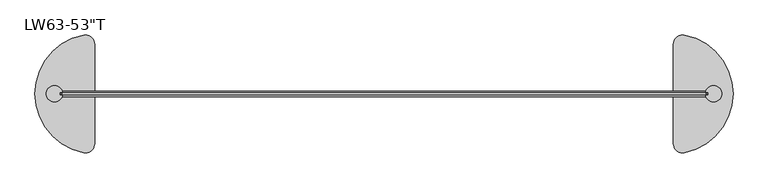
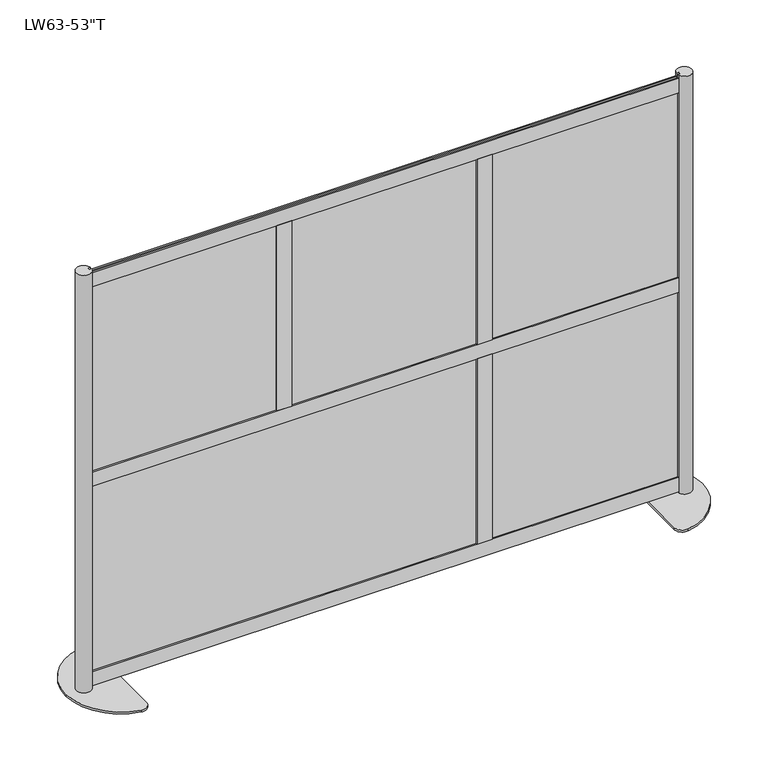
"""IFC4 building model written with IfcOpenShell, lengths in millimetres: furniture geometry."""

from ifc_helpers import new_model, si_unit, point, frame, frame_2d, origin, origin_with_axes, place, context, project, spatial, polyline, circle_curve, trimmed, segment, composite_curve, outline, extrude, source, transform, mapped, element, save


def furniture_f7fb56cb(model_context):
    return source(origin(), model_context, "Body", "SweptSolid", [
        extrude(outline(polyline([(292.5552141, -1.531862), (-896.4822859, -1.531862), (-896.4822859, 1.643138), (292.5552141, 1.643138), (292.5552141, -1.531862)])), frame((0.0, 0.0, 49.2132135), z_axis=(0.0, 0.0, 1.0), x_axis=(1.0, 0.0, 0.0)), (0.0, 0.0, 1.0), 608.965),
        extrude(outline(polyline([(-897.2933616, 1.5875), (-319.4433608, 1.5875), (-319.4435344, -1.5875), (-897.2935353, -1.5875), (-897.2933616, 1.5875)])), frame((0.0, 0.0, 689.2671), z_axis=(0.0, 0.0, 1.0), x_axis=(1.0, 0.0, 0.0)), (0.0, 0.0, 1.0), 608.965),
        extrude(outline(polyline([(-296.520037, 1.5875), (281.3299638, 1.5875), (281.3297902, -1.5875), (-296.5202107, -1.5875), (-296.520037, 1.5875)])), frame((0.0, 0.0, 689.2671), z_axis=(0.0, 0.0, 1.0), x_axis=(1.0, 0.0, 0.0)), (0.0, 0.0, 1.0), 608.965),
        extrude(outline(polyline([(316.9532876, 1.5875), (894.8032884, 1.5875), (894.8031147, -1.5875), (316.9531139, -1.5875), (316.9532876, 1.5875)])), frame((0.0, 0.0, 689.2671), z_axis=(0.0, 0.0, 1.0), x_axis=(1.0, 0.0, 0.0)), (0.0, 0.0, 1.0), 608.965),
        extrude(outline(polyline([(316.9532876, 1.5875), (894.8032884, 1.5875), (894.8031147, -1.5875), (316.9531139, -1.5875), (316.9532876, 1.5875)])), frame((0.0, 0.0, 49.2633), z_axis=(0.0, 0.0, 1.0), x_axis=(1.0, 0.0, 0.0)), (0.0, 0.0, 1.0), 608.965),
        extrude(outline(polyline([(323.8118123, 3.556), (316.6998123, 3.556), (316.6998123, -3.556), (323.8118123, -3.556), (323.8118123, -7.6327), (278.5490123, -7.6327), (278.5490123, -3.556), (285.6610123, -3.556), (285.6610123, 3.556), (278.5490123, 3.556), (278.5490123, 7.6327), (323.8118123, 7.6327), (323.8118123, 3.556)])), frame((0.0, 0.0, 696.3791), z_axis=(0.0, 0.0, 1.0), x_axis=(1.0, 0.0, 0.0)), (0.0, 0.0, 1.0), 594.741),
        extrude(outline(polyline([(323.8118123, 3.556), (316.6998123, 3.556), (316.6998123, -3.556), (323.8118123, -3.556), (323.8118123, -7.6327), (278.5490123, -7.6327), (278.5490123, -3.556), (285.6610123, -3.556), (285.6610123, 3.556), (278.5490123, 3.556), (278.5490123, 7.6327), (323.8118123, 7.6327), (323.8118123, 3.556)])), frame((0.0, 0.0, 56.3753), z_axis=(0.0, 0.0, 1.0), x_axis=(1.0, 0.0, 0.0)), (0.0, 0.0, 1.0), 594.741),
        extrude(outline(polyline([(-329.3680623, 3.556), (-329.3680623, 7.6327), (-284.1052623, 7.6327), (-284.1052623, 3.556), (-291.2172623, 3.556), (-291.2172623, -3.556), (-284.1052623, -3.556), (-284.1052623, -7.6327), (-329.3680623, -7.6327), (-329.3680623, -3.556), (-322.2560623, -3.556), (-322.2560623, 3.556), (-329.3680623, 3.556)])), frame((0.0, 0.0, 696.3791), z_axis=(0.0, 0.0, 1.0), x_axis=(1.0, 0.0, 0.0)), (0.0, 0.0, 1.0), 594.741),
        extrude(outline(polyline([(3.556, 651.1163), (3.556, 658.2283), (-3.556, 658.2283), (-3.556, 651.1163), (-7.6327, 651.1163), (-7.6327, 696.3791), (-3.556, 696.3791), (-3.556, 689.2671), (3.556, 689.2671), (3.556, 696.3791), (7.6327, 696.3791), (7.6327, 651.1163), (3.556, 651.1163)])), frame((-889.7874, 0.0, 0.0), z_axis=(1.0, 0.0, 0.0), x_axis=(0.0, 1.0, 0.0)), (0.0, 0.0, 1.0), 1779.5748),
        extrude(outline(polyline([(3.556, 11.1125), (3.556, 18.2245), (-3.556, 18.2245), (-3.556, 11.1125), (-7.6327, 11.1125), (-7.6327, 56.3753), (-3.556, 56.3753), (-3.556, 49.2633), (3.556, 49.2633), (3.556, 56.3753), (7.6327, 56.3753), (7.6327, 11.1125), (3.556, 11.1125)])), frame((-889.8636, 0.0, 0.0), z_axis=(1.0, 0.0, 0.0), x_axis=(0.0, 1.0, 0.0)), (0.0, 0.0, 1.0), 1779.7272),
        extrude(outline(polyline([(3.556, 1291.1200292), (3.556, 1298.2320292), (-3.556, 1298.2320292), (-3.556, 1291.1200292), (-7.6327, 1291.1200292), (-7.6327, 1336.3828292), (-3.556, 1336.3828292), (-3.556, 1329.2708292), (3.556, 1329.2708292), (3.556, 1336.3828292), (7.6327, 1336.3828292), (7.6327, 1291.1200292), (3.556, 1291.1200292)])), frame((-889.8636, 0.0, 0.0), z_axis=(1.0, 0.0, 0.0), x_axis=(0.0, 1.0, 0.0)), (0.0, 0.0, 1.0), 1779.7272),
        extrude(outline(composite_curve([segment(polyline([(889.8636, -7.7568093), (889.8636, -3.556), (896.9756, -3.556), (896.9756, 3.556), (889.8636, 3.556), (889.8636, 7.7568093)]), True, "CONTINUOUS"), segment(trimmed(circle_curve(frame_2d((910.9665837, 0.0)), 22.4834163), [point((889.8636, 7.7568093))], [point((889.8636, -7.7568093))], False, "CARTESIAN"), True, "CONTINUOUS")], self_intersect=False)), frame((0.0, 0.0, 6.35), z_axis=(0.0, 0.0, 1.0), x_axis=(1.0, 0.0, 0.0)), (0.0, 0.0, 1.0), 1339.85),
        extrude(outline(composite_curve([segment(polyline([(800.1, -137.3715036), (800.1, 137.3715036)]), True, "CONTINUOUS"), segment(trimmed(circle_curve(frame_2d((825.5, 137.3715036)), 25.4), [point((800.1, 137.3715036))], [point((830.1181818, 162.3481406))], False, "CARTESIAN"), True, "CONTINUOUS"), segment(trimmed(circle_curve(frame_2d((800.1, 0.0)), 165.1), [point((830.1181818, 162.3481406))], [point((965.2, 0.0))], False, "CARTESIAN"), True, "CONTINUOUS"), segment(trimmed(circle_curve(frame_2d((800.1, 0.0)), 165.1), [point((965.2, 0.0))], [point((830.1181818, -162.3481406))], False, "CARTESIAN"), True, "CONTINUOUS"), segment(trimmed(circle_curve(frame_2d((825.5, -137.3715036)), 25.4), [point((830.1181818, -162.3481406))], [point((800.1, -137.3715036))], False, "CARTESIAN"), True, "CONTINUOUS")], self_intersect=False)), origin_with_axes(), (0.0, 0.0, 1.0), 6.35),
        extrude(outline(composite_curve([segment(trimmed(circle_curve(frame_2d((-910.9665837, 0.0)), 22.4834163), [point((-889.8636, -7.7568093))], [point((-889.8636, 7.7568093))], False, "CARTESIAN"), True, "CONTINUOUS"), segment(polyline([(-889.8636, 7.7568093), (-889.8636, 3.556), (-896.9756, 3.556), (-896.9756, -3.556), (-889.8636, -3.556), (-889.8636, -7.7568093)]), True, "CONTINUOUS")], self_intersect=False)), frame((0.0, 0.0, 6.35), z_axis=(0.0, 0.0, 1.0), x_axis=(1.0, 0.0, 0.0)), (0.0, 0.0, 1.0), 1339.85),
        extrude(outline(composite_curve([segment(trimmed(circle_curve(frame_2d((-825.5, -137.3715036)), 25.4), [point((-800.1, -137.3715036))], [point((-830.1181818, -162.3481406))], False, "CARTESIAN"), True, "CONTINUOUS"), segment(trimmed(circle_curve(frame_2d((-800.1, 0.0)), 165.1), [point((-830.1181818, -162.3481406))], [point((-965.2, 0.0))], False, "CARTESIAN"), True, "CONTINUOUS"), segment(trimmed(circle_curve(frame_2d((-800.1, 0.0)), 165.1), [point((-965.2, 0.0))], [point((-830.1181818, 162.3481406))], False, "CARTESIAN"), True, "CONTINUOUS"), segment(trimmed(circle_curve(frame_2d((-825.5, 137.3715036)), 25.4), [point((-830.1181818, 162.3481406))], [point((-800.1, 137.3715036))], False, "CARTESIAN"), True, "CONTINUOUS"), segment(polyline([(-800.1, 137.3715036), (-800.1, -137.3715036)]), True, "CONTINUOUS")], self_intersect=False)), origin_with_axes(), (0.0, 0.0, 1.0), 6.35),
    ])


if __name__ == "__main__":
    model = new_model("IFC4")
    model_context = context("Model", 3, world=origin())
    ifc_project = project(units=[si_unit("LENGTHUNIT", "METRE", prefix="MILLI")], contexts=[model_context])
    site = spatial("IfcSite", under=ifc_project)
    building = spatial("IfcBuilding", under=site)
    placement = place(None, origin())
    furniture_shape = furniture_f7fb56cb(model_context)
    element("IfcFurniture", 1, ObjectType="Loft_Wall-Framewall-76 : LW63-53\"T", at=placement, inside=building, context=model_context, shape_type="MappedRepresentation", body=[
        mapped(furniture_shape, transform((0.0, 0.0, 0.0), x_axis=(1.0, 0.0, 0.0), y_axis=(0.0, 1.0, 0.0), z_axis=(0.0, 0.0, 1.0))),
    ])
    save(model, "model.ifc")
